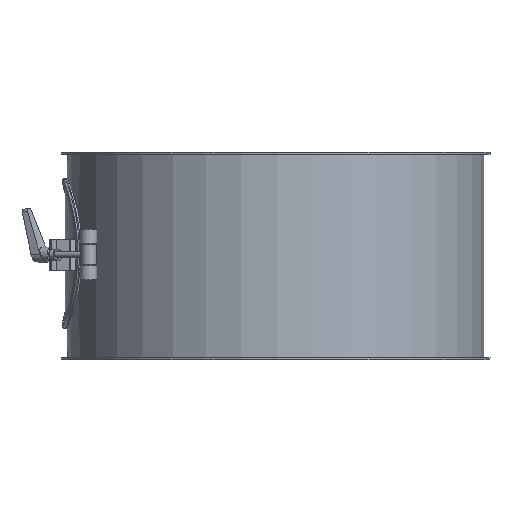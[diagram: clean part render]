
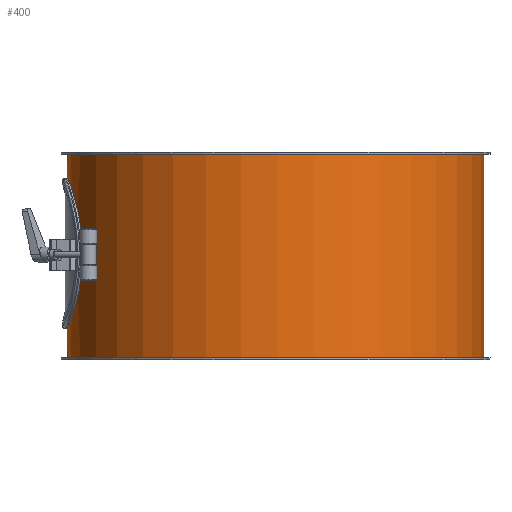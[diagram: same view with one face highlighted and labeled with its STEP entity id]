
A CAD part, front view. The second image highlights one B-rep face of the part: STEP entity #400.
In plain terms, the highlighted cylindrical face has radius 201 mm (diameter 402 mm), a full revolution.
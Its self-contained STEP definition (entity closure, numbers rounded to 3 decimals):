
#185=CARTESIAN_POINT('',(-192.6,-57.5,100.));
#186=VERTEX_POINT('',#185);
#187=CARTESIAN_POINT('',(-192.6,-57.5,100.0));
#188=CARTESIAN_POINT('',(-192.6,-57.5,96.368));
#189=CARTESIAN_POINT('',(-192.706,-57.15,92.618));
#190=CARTESIAN_POINT('',(-193.134,-55.685,85.173));
#191=CARTESIAN_POINT('',(-193.457,-54.57,81.478));
#192=CARTESIAN_POINT('',(-194.262,-51.63,74.401));
#193=CARTESIAN_POINT('',(-194.745,-49.802,71.014));
#194=CARTESIAN_POINT('',(-195.774,-45.588,64.755));
#195=CARTESIAN_POINT('',(-196.32,-43.2,61.883));
#196=CARTESIAN_POINT('',(-197.37,-38.118,56.8));
#197=CARTESIAN_POINT('',(-197.911,-35.246,54.413));
#198=CARTESIAN_POINT('',(-198.924,-28.987,50.198));
#199=CARTESIAN_POINT('',(-199.395,-25.599,48.37));
#200=CARTESIAN_POINT('',(-200.176,-18.522,45.43));
#201=CARTESIAN_POINT('',(-200.487,-14.826,44.315));
#202=CARTESIAN_POINT('',(-200.899,-7.381,42.85));
#203=CARTESIAN_POINT('',(-201.0,-3.631,42.5));
#204=CARTESIAN_POINT('',(-201.0,3.631,42.5));
#205=CARTESIAN_POINT('',(-200.899,7.381,42.85));
#206=CARTESIAN_POINT('',(-200.487,14.826,44.315));
#207=CARTESIAN_POINT('',(-200.176,18.522,45.43));
#208=CARTESIAN_POINT('',(-199.395,25.599,48.37));
#209=CARTESIAN_POINT('',(-198.924,28.987,50.198));
#210=CARTESIAN_POINT('',(-197.911,35.246,54.413));
#211=CARTESIAN_POINT('',(-197.37,38.118,56.8));
#212=CARTESIAN_POINT('',(-196.32,43.2,61.883));
#213=CARTESIAN_POINT('',(-195.774,45.588,64.755));
#214=CARTESIAN_POINT('',(-194.745,49.802,71.014));
#215=CARTESIAN_POINT('',(-194.262,51.63,74.401));
#216=CARTESIAN_POINT('',(-193.457,54.57,81.478));
#217=CARTESIAN_POINT('',(-193.134,55.685,85.173));
#218=CARTESIAN_POINT('',(-192.706,57.15,92.618));
#219=CARTESIAN_POINT('',(-192.6,57.5,96.368));
#220=CARTESIAN_POINT('',(-192.6,57.5,103.632));
#221=CARTESIAN_POINT('',(-192.706,57.15,107.382));
#222=CARTESIAN_POINT('',(-193.134,55.685,114.827));
#223=CARTESIAN_POINT('',(-193.457,54.57,118.522));
#224=CARTESIAN_POINT('',(-194.262,51.63,125.599));
#225=CARTESIAN_POINT('',(-194.745,49.802,128.986));
#226=CARTESIAN_POINT('',(-195.774,45.588,135.245));
#227=CARTESIAN_POINT('',(-196.32,43.2,138.117));
#228=CARTESIAN_POINT('',(-197.37,38.118,143.2));
#229=CARTESIAN_POINT('',(-197.911,35.246,145.587));
#230=CARTESIAN_POINT('',(-198.924,28.987,149.802));
#231=CARTESIAN_POINT('',(-199.395,25.599,151.63));
#232=CARTESIAN_POINT('',(-200.176,18.522,154.57));
#233=CARTESIAN_POINT('',(-200.487,14.826,155.685));
#234=CARTESIAN_POINT('',(-200.899,7.381,157.15));
#235=CARTESIAN_POINT('',(-201.0,3.631,157.5));
#236=CARTESIAN_POINT('',(-201.0,-3.631,157.5));
#237=CARTESIAN_POINT('',(-200.899,-7.381,157.15));
#238=CARTESIAN_POINT('',(-200.487,-14.826,155.685));
#239=CARTESIAN_POINT('',(-200.176,-18.522,154.57));
#240=CARTESIAN_POINT('',(-199.395,-25.599,151.63));
#241=CARTESIAN_POINT('',(-198.924,-28.987,149.802));
#242=CARTESIAN_POINT('',(-197.911,-35.246,145.587));
#243=CARTESIAN_POINT('',(-197.37,-38.118,143.2));
#244=CARTESIAN_POINT('',(-196.32,-43.2,138.117));
#245=CARTESIAN_POINT('',(-195.774,-45.588,135.245));
#246=CARTESIAN_POINT('',(-194.745,-49.802,128.986));
#247=CARTESIAN_POINT('',(-194.262,-51.63,125.599));
#248=CARTESIAN_POINT('',(-193.457,-54.57,118.522));
#249=CARTESIAN_POINT('',(-193.134,-55.685,114.827));
#250=CARTESIAN_POINT('',(-192.706,-57.15,107.382));
#251=CARTESIAN_POINT('',(-192.6,-57.5,103.632));
#252=CARTESIAN_POINT('',(-192.6,-57.5,100.0));
#253=B_SPLINE_CURVE_WITH_KNOTS('',3,(#187,#188,#189,#190,#191,#192,#193,#194,#195,#196,#197,#198,#199,#200,#201,#202,#203,#204,#205,#206,#207,#208,#209,#210,#211,#212,#213,#214,#215,#216,#217,#218,#219,#220,#221,#222,#223,#224,#225,#226,#227,#228,#229,#230,#231,#232,#233,#234,#235,#236,#237,#238,#239,#240,#241,#242,#243,#244,#245,#246,#247,#248,#249,#250,#251,#252),.UNSPECIFIED.,.T.,.U.,(4,2,2,2,2,2,2,2,2,2,2,2,2,2,2,2,2,2,2,2,2,2,2,2,2,2,2,2,2,2,2,2,4),(0.0,1.09,2.179,3.269,4.359,5.448,6.538,7.627,8.717,9.806,10.895,11.985,13.074,14.164,15.254,16.343,17.433,18.523,19.613,20.702,21.792,22.881,23.971,25.06,26.15,27.239,28.329,29.418,30.507,31.597,32.687,33.777,34.866),.UNSPECIFIED.);
#254=EDGE_CURVE('',#186,#186,#253,.T.);
#295=CARTESIAN_POINT('',(201.0,0.,198.0));
#296=VERTEX_POINT('',#295);
#297=CARTESIAN_POINT('',(0.0,0.0,198.0));
#298=DIRECTION('',(0.0,0.0,-1.0));
#299=DIRECTION('',(-1.0,0.0,0.0));
#300=AXIS2_PLACEMENT_3D('',#297,#298,#299);
#301=CIRCLE('',#300,201.0);
#302=EDGE_CURVE('',#296,#296,#301,.T.);
#343=CARTESIAN_POINT('',(-201.0,0.,2.0));
#344=VERTEX_POINT('',#343);
#345=CARTESIAN_POINT('',(0.0,0.0,2.0));
#346=DIRECTION('',(0.0,0.0,1.0));
#347=DIRECTION('',(-1.0,0.0,0.0));
#348=AXIS2_PLACEMENT_3D('',#345,#346,#347);
#349=CIRCLE('',#348,201.0);
#350=EDGE_CURVE('',#344,#344,#349,.T.);
#386=CARTESIAN_POINT('',(0.0,0.0,0.0));
#387=DIRECTION('',(0.0,0.0,1.0));
#388=DIRECTION('',(-1.0,0.0,0.0));
#389=AXIS2_PLACEMENT_3D('',#386,#387,#388);
#390=CYLINDRICAL_SURFACE('',#389,201.0);
#391=ORIENTED_EDGE('',*,*,#302,.T.);
#392=EDGE_LOOP('',(#391));
#393=FACE_OUTER_BOUND('',#392,.T.);
#394=ORIENTED_EDGE('',*,*,#254,.T.);
#395=EDGE_LOOP('',(#394));
#396=FACE_BOUND('',#395,.T.);
#397=ORIENTED_EDGE('',*,*,#350,.T.);
#398=EDGE_LOOP('',(#397));
#399=FACE_BOUND('',#398,.T.);
#400=ADVANCED_FACE('',(#393,#396,#399),#390,.T.);
